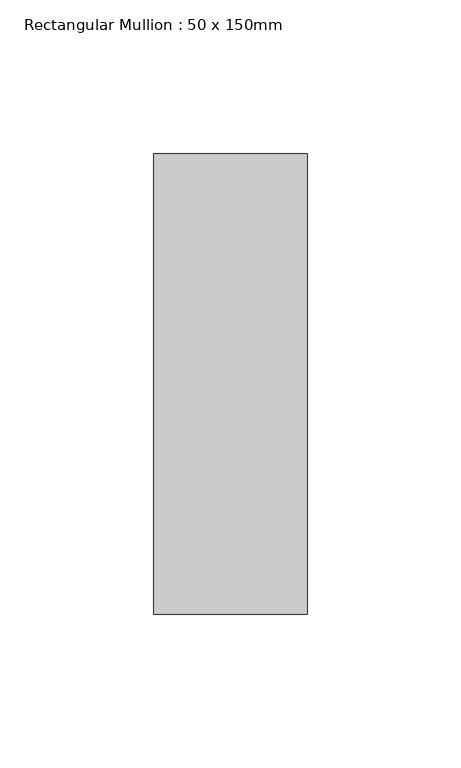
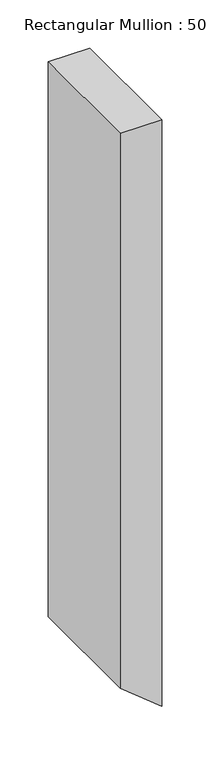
"""IFC4 building model written with IfcOpenShell, lengths in millimetres: member geometry, Rectangular Mullion : 50 x 150mm."""

from ifc_helpers import new_model, si_unit, frame, origin, place, context, project, spatial, polyline, outline, extrude, source, transform, mapped, element, save


def rectangular_mullion_50_x_150mm_9c4394d0(model_context):
    return source(origin(), model_context, "Body", "SweptSolid", [
        extrude(outline(polyline([(0.0, 0.0), (0.0, -50.0), (-704.9886821, -50.0), (-745.4270576, 0.0), (0.0, 0.0)])), frame((0.0, -75.0, 0.0), z_axis=(0.0, 1.0, 0.0), x_axis=(0.0, 0.0, 1.0)), (0.0, 0.0, 1.0), 150.0),
    ])


if __name__ == "__main__":
    model = new_model("IFC4")
    model_context = context("Model", 3, world=origin())
    ifc_project = project(units=[si_unit("LENGTHUNIT", "METRE", prefix="MILLI")], contexts=[model_context])
    site = spatial("IfcSite", under=ifc_project)
    building = spatial("IfcBuilding", under=site)
    placement = place(None, origin())
    rectangular_mullion_50_x_150mm_shape = rectangular_mullion_50_x_150mm_9c4394d0(model_context)
    element("IfcMember", 1, ObjectType="Rectangular Mullion : 50 x 150mm", at=placement, inside=building, context=model_context, shape_type="MappedRepresentation", body=[
        mapped(rectangular_mullion_50_x_150mm_shape, transform((0.0, 0.0, 0.0), x_axis=(1.0, 0.0, 0.0), y_axis=(0.0, 1.0, 0.0), z_axis=(0.0, 0.0, 1.0))),
    ])
    save(model, "model.ifc")
